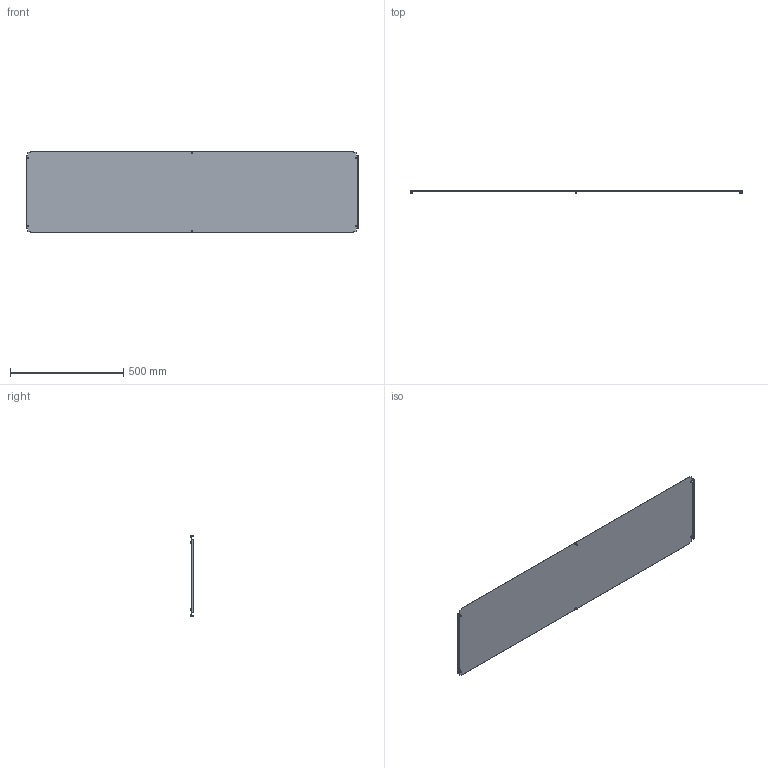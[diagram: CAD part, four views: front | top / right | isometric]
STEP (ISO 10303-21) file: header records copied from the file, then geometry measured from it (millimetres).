
FILE_DESCRIPTION (( 'STEP AP203' ), '1' );
FILE_NAME ('R5N1BP165.STEP', '2025-02-21T14:03:31', ( '' ), ( '' ), 'SwSTEP 2.0', 'SolidWorks 2022', '' );
FILE_SCHEMA (( 'CONFIG_CONTROL_DESIGN' ));
Length unit declared in the file: millimetre
Products named in the file (3): M5x12 DIN 7500 C Torx Zinc_stright; R5N1BP165; RB.1923.00.00.0_-35
Assembly tree (7 placements, depth 2):
  R5N1BP165
    RB.1923.00.00.0_-35
    M5x12 DIN 7500 C Torx Zinc_stright  x6
Bounding box: 1468 x 15.56 x 362 mm (x, y, z)
Volume: 805486 mm3; surface area: 1078869.4 mm2
Topology: 7 solids, 7 shells, 166 faces, 384 edges, 238 vertices
Faces by surface type: plane 106, cylinder 24, torus 12, cone 12, sphere 6, bspline 6
Full cylindrical faces by diameter (mm): 5 x6, 9.5 x6
Entity records: 3297 total; most frequent: CARTESIAN_POINT 674, ORIENTED_EDGE 448, DIRECTION 444, EDGE_CURVE 224, VECTOR 180, LINE 180, VERTEX_POINT 150, AXIS2_PLACEMENT_3D 132
